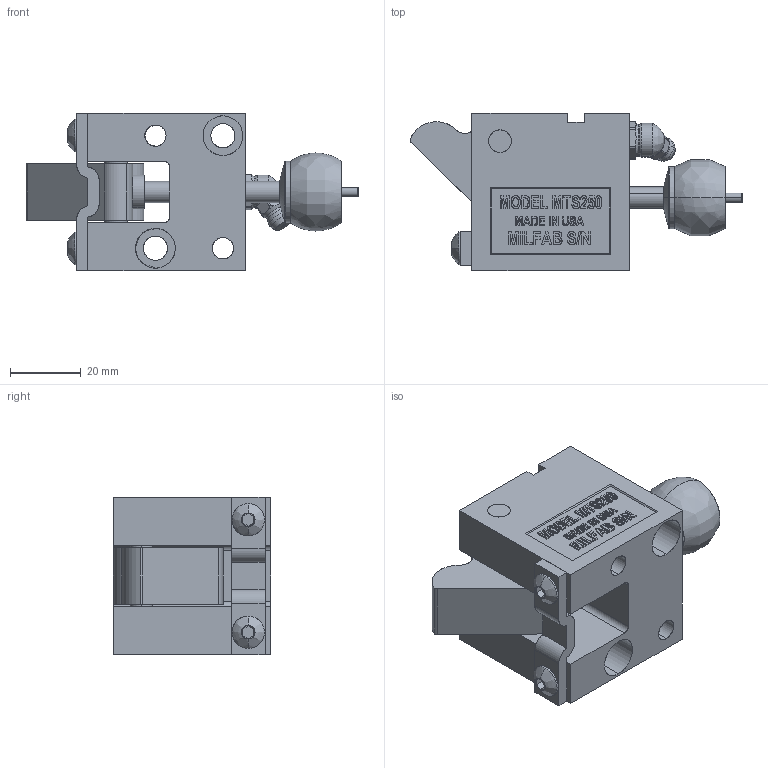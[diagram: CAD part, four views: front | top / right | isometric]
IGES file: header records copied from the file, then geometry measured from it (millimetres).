
Start section: SolidWorks IGES file using analytic representation for surfaces
Global section: file name: Y:\METRIC TOP MOUNT CAM UNITS\MTS250\CLOSED\MTS250-C.IGS; native system: SolidWorks 2006 by SolidWorks Corporation; preprocessor: SolidWorks 2006 by SolidWorks Corporation; author: Jim; date: 090116.141457; units: inch
Bounding box: 93.65 x 44.45 x 44.45 mm (x, y, z)
Surface area: 28745.9 mm2 (no closed solid volume)
Topology: 0 solids, 0 shells, 591 faces, 7013 edges, 7009 vertices
Faces by surface type: bspline 471, revolution 120
